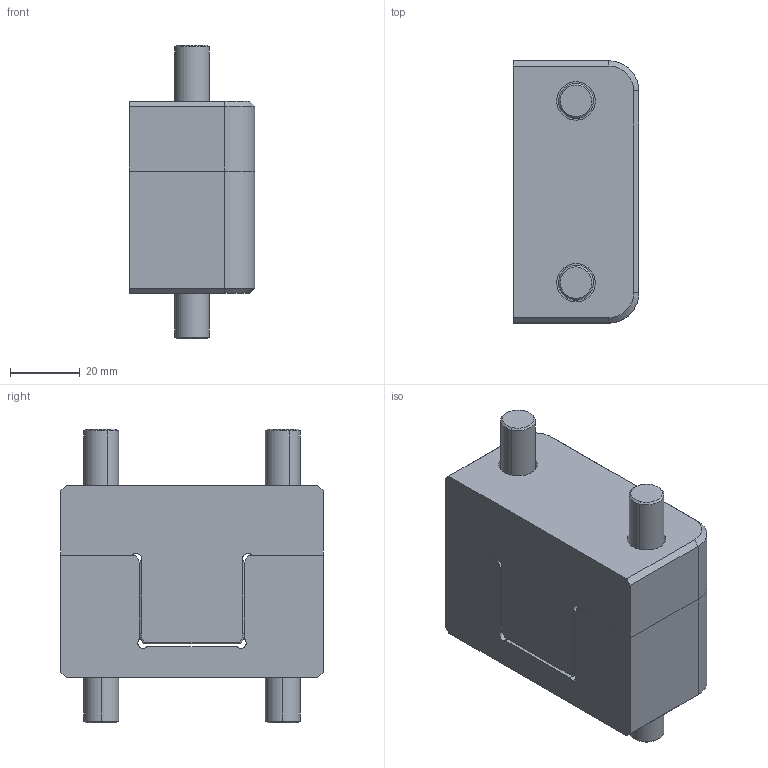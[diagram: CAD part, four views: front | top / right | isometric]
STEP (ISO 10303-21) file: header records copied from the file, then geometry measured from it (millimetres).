
FILE_DESCRIPTION (( 'STEP AP203' ), '1' );
FILE_NAME ('TLM36X75.step', '2018-03-16T16:55:43', ( '' ), ( '' ), 'SwSTEP 2.0', 'SolidWorks 2015', '' );
FILE_SCHEMA (( 'CONFIG_CONTROL_DESIGN' ));
Length unit declared in the file: millimetre
Products named in the file (5): M10_X_25; TLM36X75 FEMALE; TLM36X75; TLM36X75 MALE; M10_X_35
Assembly tree (6 placements, depth 2):
  TLM36X75
    TLM36X75 MALE
    TLM36X75 FEMALE
    M10_X_25  x2
    M10_X_35  x2
Bounding box: 36 x 75 x 84 mm (x, y, z)
Volume: 142469.8 mm3; surface area: 37948.8 mm2
Topology: 6 solids, 6 shells, 392 faces, 858 edges, 560 vertices
Faces by surface type: cylinder 197, plane 149, cone 22, torus 18, bspline 6
Entity records: 10751 total; most frequent: CARTESIAN_POINT 1978, DIRECTION 1872, ORIENTED_EDGE 1564, EDGE_CURVE 782, AXIS2_PLACEMENT_3D 774, VERTEX_POINT 512, EDGE_LOOP 442, CIRCLE 415
